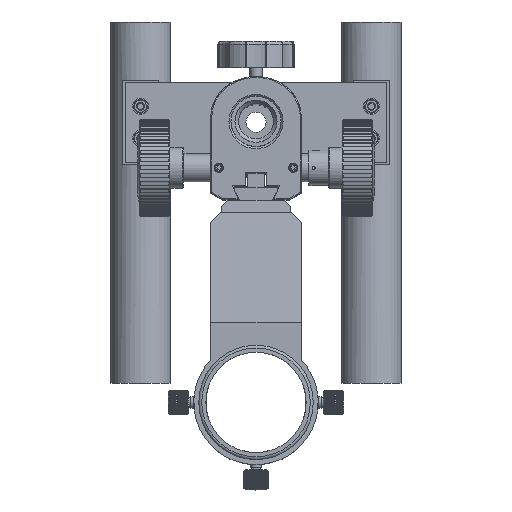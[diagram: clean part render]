
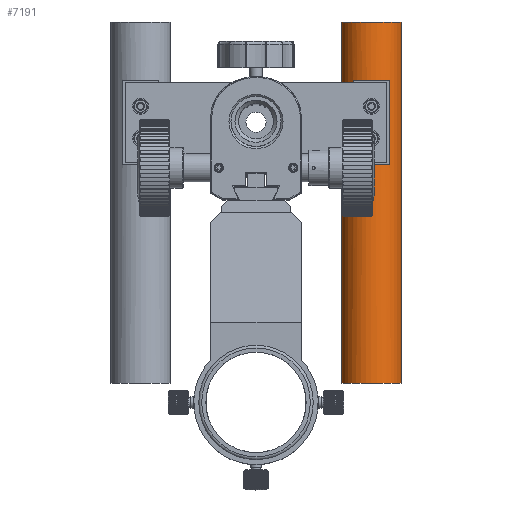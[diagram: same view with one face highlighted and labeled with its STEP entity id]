
A CAD part, top view. The second image highlights one B-rep face of the part: STEP entity #7191.
In plain terms, the highlighted cylindrical face has radius 15 mm (diameter 30 mm), a full revolution.
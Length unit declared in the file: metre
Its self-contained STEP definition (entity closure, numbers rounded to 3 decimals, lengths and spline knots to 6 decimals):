
#7191=ADVANCED_FACE('5:12839',(#21241,#21242,#21243),#21244,.T.);
#7215=EDGE_CURVE('5:13376',#21281,#21281,#21282,.T.);
#7269=EDGE_CURVE('5:13367',#21362,#21358,#21363,.T.);
#7273=EDGE_CURVE('5:13370',#21365,#21359,#21368,.T.);
#7441=EDGE_CURVE('5:13382',#21599,#21599,#21600,.T.);
#7491=EDGE_CURVE('5:13385',#21358,#21359,#21663,.T.);
#7493=EDGE_CURVE('5:13379',#21365,#21362,#21665,.T.);
#21241=FACE_BOUND('',#40682,.T.);
#21242=FACE_OUTER_BOUND('',#40683,.T.);
#21243=FACE_OUTER_BOUND('',#40684,.T.);
#21244=CYLINDRICAL_SURFACE('',#40685,0.015);
#21281=VERTEX_POINT('',#40734);
#21282=CIRCLE('',#40735,0.015);
#21358=VERTEX_POINT('',#40872);
#21359=VERTEX_POINT('',#40873);
#21362=VERTEX_POINT('',#40878);
#21363=LINE('',#40879,#40880);
#21365=VERTEX_POINT('',#40883);
#21368=LINE('',#40888,#40889);
#21599=VERTEX_POINT('',#41311);
#21600=CIRCLE('',#41312,0.015);
#21663=CIRCLE('',#41418,0.015);
#21665=CIRCLE('',#41421,0.015);
#40682=EDGE_LOOP('',(#122239,#122240,#122241,#122242));
#40683=EDGE_LOOP('',(#122243));
#40684=EDGE_LOOP('',(#122244));
#40685=AXIS2_PLACEMENT_3D('',#122245,#122246,#122247);
#40734=CARTESIAN_POINT('',(0.04117,0.1524,-0.01));
#40735=AXIS2_PLACEMENT_3D('',#122306,#122307,#122308);
#40872=CARTESIAN_POINT('',(0.06517,0.0814,0.002));
#40873=CARTESIAN_POINT('',(0.04717,0.0814,0.002));
#40878=CARTESIAN_POINT('',(0.06517,0.1234,0.002));
#40879=CARTESIAN_POINT('',(0.06517,0.1234,0.002));
#40880=VECTOR('',#122345,1.0);
#40883=CARTESIAN_POINT('',(0.04717,0.1234,0.002));
#40888=CARTESIAN_POINT('',(0.04717,0.1234,0.002));
#40889=VECTOR('',#122347,1.0);
#41311=CARTESIAN_POINT('',(0.05617,-0.0276,-0.025));
#41312=AXIS2_PLACEMENT_3D('',#122458,#122459,#122460);
#41418=AXIS2_PLACEMENT_3D('',#122502,#122503,#122504);
#41421=AXIS2_PLACEMENT_3D('',#122505,#122506,#122507);
#122239=ORIENTED_EDGE('',*,*,#7269,.T.);
#122240=ORIENTED_EDGE('',*,*,#7491,.T.);
#122241=ORIENTED_EDGE('',*,*,#7273,.F.);
#122242=ORIENTED_EDGE('',*,*,#7493,.T.);
#122243=ORIENTED_EDGE('',*,*,#7215,.F.);
#122244=ORIENTED_EDGE('',*,*,#7441,.F.);
#122245=CARTESIAN_POINT('',(0.05617,0.1234,-0.01));
#122246=DIRECTION('',(0.0,-1.0,0.0));
#122247=DIRECTION('',(0.0,0.0,-1.0));
#122306=CARTESIAN_POINT('',(0.05617,0.1524,-0.01));
#122307=DIRECTION('',(0.0,1.0,0.0));
#122308=DIRECTION('',(-1.0,0.0,0.0));
#122345=DIRECTION('',(0.0,-1.0,0.0));
#122347=DIRECTION('',(0.0,-1.0,0.0));
#122458=CARTESIAN_POINT('',(0.05617,-0.0276,-0.01));
#122459=DIRECTION('',(0.0,-1.0,0.0));
#122460=DIRECTION('',(0.0,0.0,-1.0));
#122502=CARTESIAN_POINT('',(0.05617,0.0814,-0.01));
#122503=DIRECTION('',(0.0,-1.0,0.0));
#122504=DIRECTION('',(1.0,0.0,0.0));
#122505=CARTESIAN_POINT('',(0.05617,0.1234,-0.01));
#122506=DIRECTION('',(0.0,1.0,0.0));
#122507=DIRECTION('',(-1.0,0.0,0.0));
